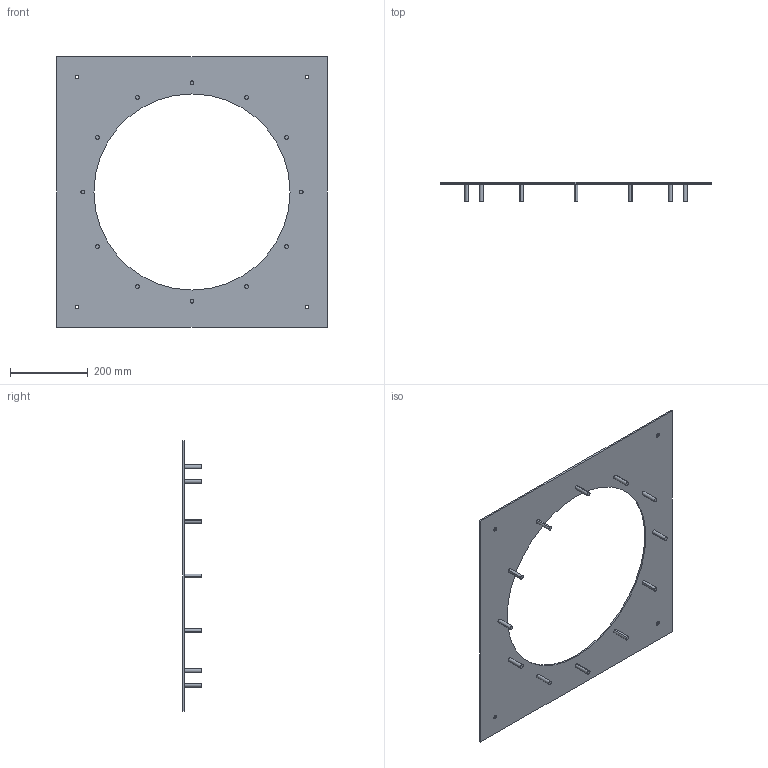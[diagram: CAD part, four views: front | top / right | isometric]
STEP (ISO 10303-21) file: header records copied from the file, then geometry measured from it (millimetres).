
FILE_DESCRIPTION(('STEP AP214'),'1');
FILE_NAME('accessory_5136825600.stp','2017-10-10T13:29:05',('TraceParts'),('TraceParts S.A.'),'Spatial InterOp 3D',' ',' ');
FILE_SCHEMA(('automotive_design'));
Length unit declared in the file: millimetre
Products named in the file (1): accessory_5136825600
Bounding box: 694 x 48 x 694 mm (x, y, z)
Volume: 1171905.2 mm3; surface area: 599733.2 mm2
Topology: 1 solids, 1 shells, 52 faces, 114 edges, 76 vertices
Faces by surface type: cylinder 34, plane 18
Entity records: 1918 total; most frequent: DIRECTION 288, CARTESIAN_POINT 243, ORIENTED_EDGE 228, AXIS2_PLACEMENT_3D 121, EDGE_CURVE 114, VERTEX_POINT 76, EDGE_LOOP 74, CIRCLE 68
